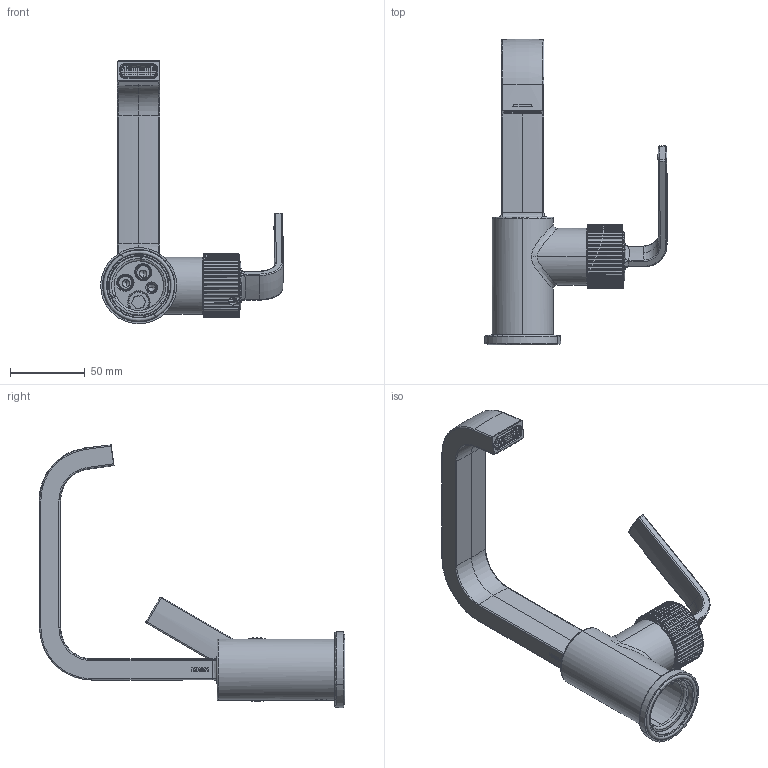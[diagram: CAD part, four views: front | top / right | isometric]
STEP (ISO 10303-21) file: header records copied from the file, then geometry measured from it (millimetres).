
FILE_DESCRIPTION (( 'STEP AP203' ), '1' );
FILE_NAME ('sku_s5748series_stp.STEP', '2026-01-26T07:09:36', ( '' ), ( '' ), 'SwSTEP 2.0', 'SolidWorks 2025', '' );
FILE_SCHEMA (( 'CONFIG_CONTROL_DESIGN' ));
Length unit declared in the file: inch
Products named in the file (14): 219433_219433_Part29; 139741_139741_Part2; 219401_02.3243.0 NEOPERL 24.5 X 9_Part4; 219432SERIES_Part5_Part28; 180365_placeholder_MR06_placeholder_Part5; 187182_187182_Assem1; sku_s5748series_stp; 187183_187183_Part1; 1001927XX_FBIN_MM_ASSY_Assem8; 1010793SERIES_1H_spout_subassembly_Assem2; 185799_185799SERIES_BREP_Part50; 1001386XX_1001386XX_Part3; 219431SERIES_Part4_Part27; 152867_152867_BREP_Part44
Assembly tree (13 placements, depth 4):
  sku_s5748series_stp
    1010793SERIES_1H_spout_subassembly_Assem2
      187182_187182_Assem1
        187183_187183_Part1
        139741_139741_Part2
      1001386XX_1001386XX_Part3
      219401_02.3243.0 NEOPERL 24.5 X 9_Part4
      180365_placeholder_MR06_placeholder_Part5
    1001927XX_FBIN_MM_ASSY_Assem8
      219431SERIES_Part4_Part27
      219432SERIES_Part5_Part28
      219433_219433_Part29
    152867_152867_BREP_Part44
    185799_185799SERIES_BREP_Part50
Bounding box: 122.37 x 204.82 x 176.58 mm (x, y, z)
Volume: 148439 mm3; surface area: 101170.2 mm2
Topology: 12 solids, 12 shells, 4254 faces, 11212 edges, 6999 vertices
Faces by surface type: cylinder 1469, plane 1285, bspline 852, torus 456, cone 186, sphere 6
Entity records: 260311 total; most frequent: CARTESIAN_POINT 161536, ORIENTED_EDGE 22354, DIRECTION 17477, EDGE_CURVE 11177, VERTEX_POINT 6994, AXIS2_PLACEMENT_3D 6365, LINE 4747, VECTOR 4747
